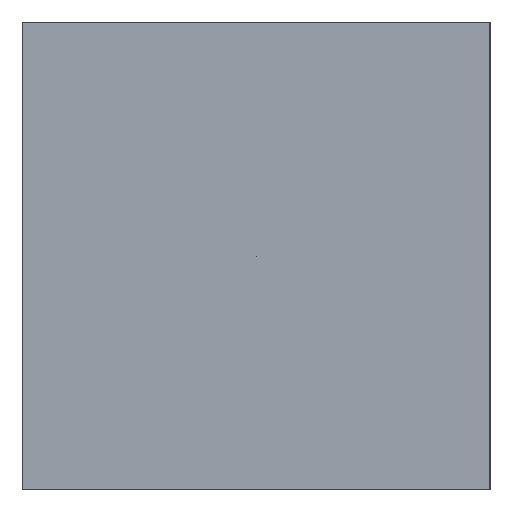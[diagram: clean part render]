
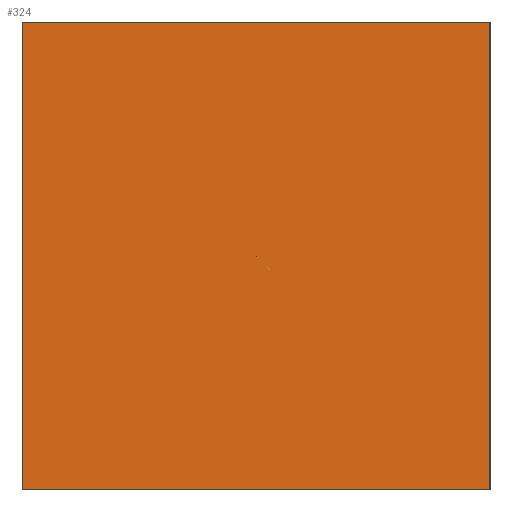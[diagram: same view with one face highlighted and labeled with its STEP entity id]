
A CAD part, left-side view. The second image highlights one B-rep face of the part: STEP entity #324.
In plain terms, the highlighted free-form (B-spline) face has degree [1, 1] with [2, 2] control points.
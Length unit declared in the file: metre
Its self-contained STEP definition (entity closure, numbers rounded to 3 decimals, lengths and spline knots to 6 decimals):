
#171=CARTESIAN_POINT('',(0.0,0.0,0.0));
#172=VERTEX_POINT('',#171);
#191=CARTESIAN_POINT('',(0.0,0.0,1.0));
#192=VERTEX_POINT('',#191);
#200=CARTESIAN_POINT('',(0.0,0.0,1.0));
#201=CARTESIAN_POINT('',(0.0,0.0,0.666667));
#202=CARTESIAN_POINT('',(0.0,0.0,0.333333));
#203=CARTESIAN_POINT('',(0.0,0.0,0.));
#204=B_SPLINE_CURVE_WITH_KNOTS('',3,(#200,#201,#202,#203),.UNSPECIFIED.,.F.,.F.,(4,4),(0.0,1.0),.UNSPECIFIED.);
#205=EDGE_CURVE('',#192,#172,#204,.T.);
#223=CARTESIAN_POINT('',(0.0,1.0,0.0));
#224=VERTEX_POINT('',#223);
#232=CARTESIAN_POINT('',(0.0,0.0,0.0));
#233=CARTESIAN_POINT('',(0.0,0.333333,0.0));
#234=CARTESIAN_POINT('',(0.0,0.666667,0.0));
#235=CARTESIAN_POINT('',(0.0,1.0,0.0));
#236=B_SPLINE_CURVE_WITH_KNOTS('',3,(#232,#233,#234,#235),.UNSPECIFIED.,.F.,.F.,(4,4),(0.0,1.0),.UNSPECIFIED.);
#237=EDGE_CURVE('',#172,#224,#236,.T.);
#255=CARTESIAN_POINT('',(0.0,1.0,1.0));
#256=VERTEX_POINT('',#255);
#266=CARTESIAN_POINT('',(0.0,1.0,0.0));
#267=CARTESIAN_POINT('',(0.0,1.0,0.333333));
#268=CARTESIAN_POINT('',(0.0,1.0,0.666667));
#269=CARTESIAN_POINT('',(0.0,1.0,1.0));
#270=B_SPLINE_CURVE_WITH_KNOTS('',3,(#266,#267,#268,#269),.UNSPECIFIED.,.F.,.F.,(4,4),(0.0,1.0),.UNSPECIFIED.);
#271=EDGE_CURVE('',#224,#256,#270,.T.);
#290=CARTESIAN_POINT('',(0.0,1.0,1.0));
#291=CARTESIAN_POINT('',(0.0,0.666667,1.0));
#292=CARTESIAN_POINT('',(0.0,0.333333,1.0));
#293=CARTESIAN_POINT('',(0.0,0.,1.0));
#294=B_SPLINE_CURVE_WITH_KNOTS('',3,(#290,#291,#292,#293),.UNSPECIFIED.,.F.,.F.,(4,4),(0.0,1.0),.UNSPECIFIED.);
#295=EDGE_CURVE('',#256,#192,#294,.T.);
#313=ORIENTED_EDGE('',*,*,#295,.T.);
#314=ORIENTED_EDGE('',*,*,#205,.T.);
#315=ORIENTED_EDGE('',*,*,#237,.T.);
#316=ORIENTED_EDGE('',*,*,#271,.T.);
#317=EDGE_LOOP('',(#313,#314,#315,#316));
#318=FACE_OUTER_BOUND('',#317,.T.);
#319=CARTESIAN_POINT('',(0.0,1.0,1.0));
#320=CARTESIAN_POINT('',(0.0,1.0,0.0));
#321=CARTESIAN_POINT('',(0.0,0.0,1.0));
#322=CARTESIAN_POINT('',(0.0,0.0,0.0));
#323=B_SPLINE_SURFACE_WITH_KNOTS('',1,1,((#319,#320),(#321,#322)),.UNSPECIFIED.,.U.,.U.,.F.,(2,2),(2,2),(0.0,1.0),(0.0,1.0),.UNSPECIFIED.);
#324=ADVANCED_FACE('',(#318),#323,.T.);
